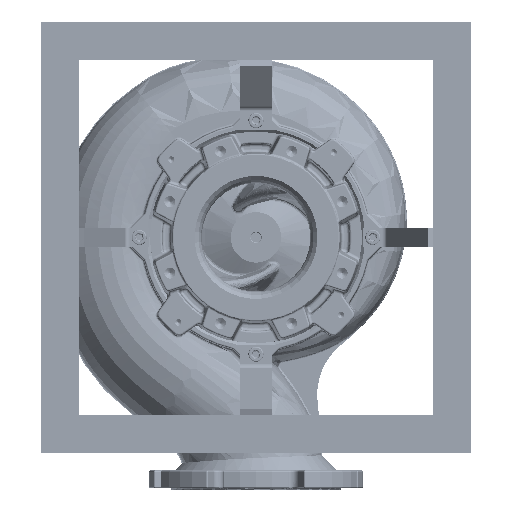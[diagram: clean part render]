
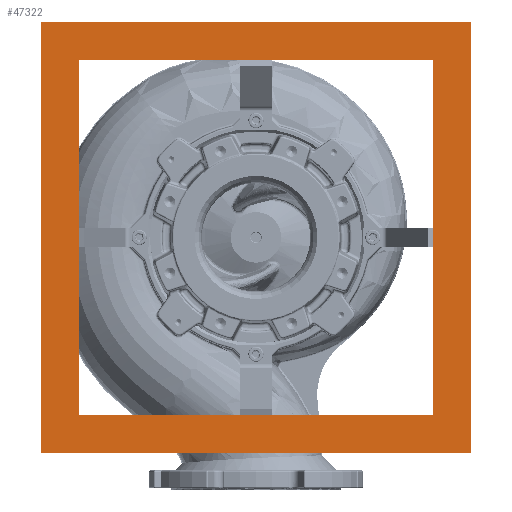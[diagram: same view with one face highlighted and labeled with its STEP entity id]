
A CAD part, front view. The second image highlights one B-rep face of the part: STEP entity #47322.
In plain terms, the highlighted planar face has unit normal (0, -1, 0).
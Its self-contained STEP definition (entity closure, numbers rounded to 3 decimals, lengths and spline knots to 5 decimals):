
#248 = EDGE_LOOP ( 'NONE', ( #436045, #181536, #261368, #352448 ) ) ;
#7611 = VECTOR ( 'NONE', #203440, 1. ) ;
#14353 = CARTESIAN_POINT ( 'NONE',  ( -0.281, 0., 0.281 ) ) ;
#31034 = EDGE_CURVE ( 'NONE', #56081, #46748, #251294, .T. ) ;
#38477 = CARTESIAN_POINT ( 'NONE',  ( -0.341, 0., 0.341 ) ) ;
#46748 = VERTEX_POINT ( 'NONE', #77432 ) ;
#47322 = ADVANCED_FACE ( 'NONE', ( #92159, #304578 ), #157306, .F. ) ;
#56081 = VERTEX_POINT ( 'NONE', #138023 ) ;
#57578 = VERTEX_POINT ( 'NONE', #249345 ) ;
#59404 = CARTESIAN_POINT ( 'NONE',  ( -0.281, 0., 0.281 ) ) ;
#77432 = CARTESIAN_POINT ( 'NONE',  ( -0.281, 0., -0.281 ) ) ;
#84132 = ORIENTED_EDGE ( 'NONE', *, *, #396988, .T. ) ;
#85196 = DIRECTION ( 'NONE',  ( 1., 0., 0. ) ) ;
#92159 = FACE_OUTER_BOUND ( 'NONE', #248, .T. ) ;
#101261 = EDGE_LOOP ( 'NONE', ( #84132, #241932, #424896, #210965 ) ) ;
#105259 = VERTEX_POINT ( 'NONE', #328289 ) ;
#107741 = VECTOR ( 'NONE', #329048, 1. ) ;
#124848 = CARTESIAN_POINT ( 'NONE',  ( -0.281, 0., -0.281 ) ) ;
#138023 = CARTESIAN_POINT ( 'NONE',  ( 0.281, 0., -0.281 ) ) ;
#138369 = DIRECTION ( 'NONE',  ( 1., 0., 0. ) ) ;
#148285 = EDGE_CURVE ( 'NONE', #205559, #294994, #501344, .T. ) ;
#157306 = PLANE ( 'NONE',  #386490 ) ;
#174657 = CARTESIAN_POINT ( 'NONE',  ( 0.281, 0., -0.281 ) ) ;
#181536 = ORIENTED_EDGE ( 'NONE', *, *, #274381, .F. ) ;
#192240 = EDGE_CURVE ( 'NONE', #294994, #56081, #336515, .T. ) ;
#203440 = DIRECTION ( 'NONE',  ( -1., 0., 0. ) ) ;
#205559 = VERTEX_POINT ( 'NONE', #59404 ) ;
#207297 = CARTESIAN_POINT ( 'NONE',  ( -0.341, 0., 0.341 ) ) ;
#210965 = ORIENTED_EDGE ( 'NONE', *, *, #31034, .T. ) ;
#232427 = DIRECTION ( 'NONE',  ( 0., 0., 1. ) ) ;
#235379 = VERTEX_POINT ( 'NONE', #256705 ) ;
#239333 = DIRECTION ( 'NONE',  ( 0., 1., 0. ) ) ;
#241932 = ORIENTED_EDGE ( 'NONE', *, *, #148285, .T. ) ;
#248878 = VECTOR ( 'NONE', #249835, 1. ) ;
#249345 = CARTESIAN_POINT ( 'NONE',  ( -0.341, 0., 0.341 ) ) ;
#249835 = DIRECTION ( 'NONE',  ( 0., 0., -1. ) ) ;
#251294 = LINE ( 'NONE', #124848, #7611 ) ;
#256705 = CARTESIAN_POINT ( 'NONE',  ( -0.341, 0., -0.341 ) ) ;
#258713 = EDGE_CURVE ( 'NONE', #57578, #394239, #424278, .T. ) ;
#261368 = ORIENTED_EDGE ( 'NONE', *, *, #416735, .F. ) ;
#273087 = CARTESIAN_POINT ( 'NONE',  ( 0.341, 0., 0.341 ) ) ;
#274381 = EDGE_CURVE ( 'NONE', #105259, #235379, #292713, .T. ) ;
#279904 = EDGE_CURVE ( 'NONE', #235379, #57578, #352842, .T. ) ;
#282629 = LINE ( 'NONE', #409442, #107741 ) ;
#292713 = LINE ( 'NONE', #511674, #505153 ) ;
#294577 = DIRECTION ( 'NONE',  ( 0., 0., 1. ) ) ;
#294994 = VERTEX_POINT ( 'NONE', #308354 ) ;
#300255 = CARTESIAN_POINT ( 'NONE',  ( 0.341, 0., -0.341 ) ) ;
#301432 = VECTOR ( 'NONE', #138369, 1. ) ;
#304578 = FACE_BOUND ( 'NONE', #101261, .T. ) ;
#308354 = CARTESIAN_POINT ( 'NONE',  ( 0.281, 0., 0.281 ) ) ;
#328289 = CARTESIAN_POINT ( 'NONE',  ( 0.341, 0., -0.341 ) ) ;
#329048 = DIRECTION ( 'NONE',  ( 0., 0., 1. ) ) ;
#336515 = LINE ( 'NONE', #174657, #248878 ) ;
#347622 = DIRECTION ( 'NONE',  ( -1., 0., 0. ) ) ;
#352448 = ORIENTED_EDGE ( 'NONE', *, *, #258713, .F. ) ;
#352842 = LINE ( 'NONE', #515430, #509184 ) ;
#380628 = DIRECTION ( 'NONE',  ( 0., 0., -1. ) ) ;
#386490 = AXIS2_PLACEMENT_3D ( 'NONE', #38477, #239333, #232427 ) ;
#394239 = VERTEX_POINT ( 'NONE', #273087 ) ;
#396988 = EDGE_CURVE ( 'NONE', #46748, #205559, #282629, .T. ) ;
#409442 = CARTESIAN_POINT ( 'NONE',  ( -0.281, 0., -0.281 ) ) ;
#416735 = EDGE_CURVE ( 'NONE', #394239, #105259, #431996, .T. ) ;
#424278 = LINE ( 'NONE', #207297, #480332 ) ;
#424896 = ORIENTED_EDGE ( 'NONE', *, *, #192240, .T. ) ;
#431996 = LINE ( 'NONE', #300255, #457087 ) ;
#436045 = ORIENTED_EDGE ( 'NONE', *, *, #279904, .F. ) ;
#457087 = VECTOR ( 'NONE', #380628, 1. ) ;
#480332 = VECTOR ( 'NONE', #85196, 1. ) ;
#501344 = LINE ( 'NONE', #14353, #301432 ) ;
#505153 = VECTOR ( 'NONE', #347622, 1. ) ;
#509184 = VECTOR ( 'NONE', #294577, 1. ) ;
#511674 = CARTESIAN_POINT ( 'NONE',  ( -0.341, 0., -0.341 ) ) ;
#515430 = CARTESIAN_POINT ( 'NONE',  ( -0.341, 0., -0.341 ) ) ;
